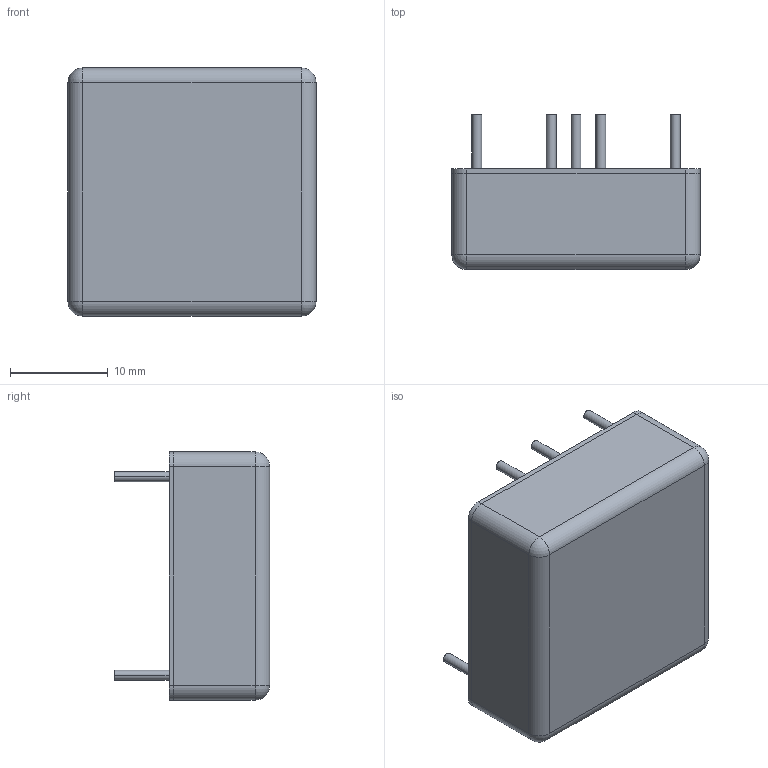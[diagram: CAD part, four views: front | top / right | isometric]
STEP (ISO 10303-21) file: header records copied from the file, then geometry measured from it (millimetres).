
FILE_DESCRIPTION (( 'STEP AP203' ), '1' );
FILE_NAME ('EC3SB THROUGH-HOLE PACKAGE-1130111.STEP', '2024-01-11T06:24:11', ( 'cincon' ), ( '' ), 'SwSTEP 2.0', 'SolidWorks 2020', '' );
FILE_SCHEMA (( 'CONFIG_CONTROL_DESIGN' ));
Length unit declared in the file: millimetre
Products named in the file (1): EC3SB THROUGH-HOLE PACKAGE-1130111
Bounding box: 25.4 x 15.9 x 25.4 mm (x, y, z)
Volume: 6567.3 mm3; surface area: 2818 mm2
Topology: 1 solids, 1 shells, 138 faces, 377 edges, 244 vertices
Faces by surface type: plane 69, cylinder 46, cone 18, sphere 4, bspline 1
Entity records: 4871 total; most frequent: CARTESIAN_POINT 1132, DIRECTION 821, ORIENTED_EDGE 746, EDGE_CURVE 373, AXIS2_PLACEMENT_3D 330, VERTEX_POINT 244, CIRCLE 192, EDGE_LOOP 167
